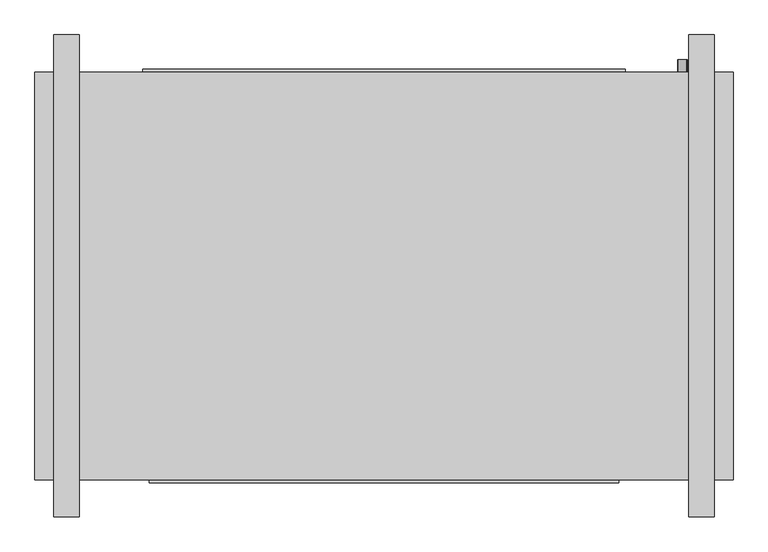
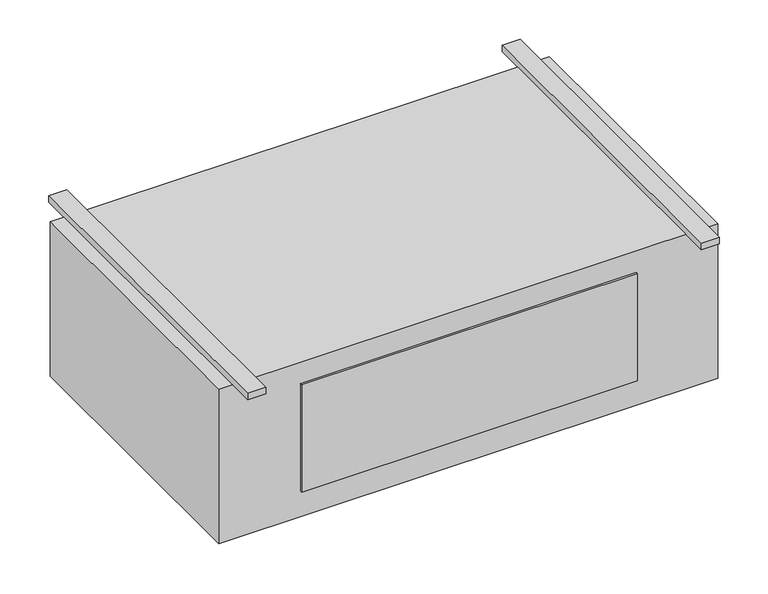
"""IFC4 building model written with IfcOpenShell, lengths in millimetres: proxy geometry, Exposed_High_Capacity_Horizontal_Cabinet_Fan_Coil_Unit_-_42DFA_-_CARRIER_-_2-Pipe_Cool-EHeat_RH_2022 : Size 16 - 277v/60Hz/1Ph - 6 Row 12.0kW."""

from ifc_helpers import new_model, si_unit, point, frame, frame_2d, origin, origin_with_axes, place, context, project, spatial, polyline, circle_curve, trimmed, segment, composite_curve, outline, extrude, source, transform, mapped, element, save


def mechanical_equipment_dbfdf2e5(model_context):
    return source(origin(), model_context, "Body", "SweptSolid", [
        extrude(outline(composite_curve([segment(trimmed(circle_curve(frame_2d((-406.4, 749.3)), 9.525), [point((-406.4, 739.775))], [point((-406.4, 758.825))], False, "CARTESIAN"), True, "CONTINUOUS"), segment(trimmed(circle_curve(frame_2d((-406.4, 749.3)), 9.525), [point((-406.4, 758.825))], [point((-406.4, 739.775))], False, "CARTESIAN"), True, "CONTINUOUS")], self_intersect=False)), frame((0.0, 169.8625, 0.0), z_axis=(0.0, 1.0, 0.0), x_axis=(0.0, 0.0, 1.0)), (0.0, 0.0, 1.0), 25.4),
        extrude(outline(composite_curve([segment(trimmed(circle_curve(frame_2d((-330.2, 749.3)), 7.9375), [point((-330.2, 741.3625))], [point((-330.2, 757.2375))], False, "CARTESIAN"), True, "CONTINUOUS"), segment(trimmed(circle_curve(frame_2d((-330.2, 749.3)), 7.9375), [point((-330.2, 757.2375))], [point((-330.2, 741.3625))], False, "CARTESIAN"), True, "CONTINUOUS")], self_intersect=False)), frame((0.0, 169.8625, 0.0), z_axis=(0.0, 1.0, 0.0), x_axis=(0.0, 0.0, 1.0)), (0.0, 0.0, 1.0), 25.4),
        extrude(outline(composite_curve([segment(trimmed(circle_curve(frame_2d((-254.0, 749.3)), 7.9375), [point((-254.0, 741.3625))], [point((-254.0, 757.2375))], False, "CARTESIAN"), True, "CONTINUOUS"), segment(trimmed(circle_curve(frame_2d((-254.0, 749.3)), 7.9375), [point((-254.0, 757.2375))], [point((-254.0, 741.3625))], False, "CARTESIAN"), True, "CONTINUOUS")], self_intersect=False)), frame((0.0, 169.8625, 0.0), z_axis=(0.0, 1.0, 0.0), x_axis=(0.0, 0.0, 1.0)), (0.0, 0.0, 1.0), 25.4),
        extrude(outline(polyline([(850.9, 169.8625), (850.9, -646.1125), (-546.1, -646.1125), (-546.1, 169.8625), (850.9, 169.8625)])), frame((0.0, 0.0, -457.2), z_axis=(0.0, 0.0, 1.0), x_axis=(1.0, 0.0, 0.0)), (0.0, 0.0, 1.0), 457.2),
        extrude(outline(polyline([(-330.2, 176.2125), (635.0, 176.2125), (635.0, 169.8625), (-330.2, 169.8625), (-330.2, 176.2125)])), frame((0.0, 0.0, -381.0), z_axis=(0.0, 0.0, 1.0), x_axis=(1.0, 0.0, 0.0)), (0.0, 0.0, 1.0), 355.6),
        extrude(outline(polyline([(-457.2, 244.475), (-457.2, -720.725), (-508.0, -720.725), (-508.0, 244.475), (-457.2, 244.475)])), origin_with_axes(), (0.0, 0.0, 1.0), 19.05),
        extrude(outline(polyline([(812.8, 244.475), (812.8, -720.725), (762.0, -720.725), (762.0, 244.475), (812.8, 244.475)])), origin_with_axes(), (0.0, 0.0, 1.0), 19.05),
        extrude(outline(polyline([(622.3, -652.4625), (-317.5, -652.4625), (-317.5, -646.1125), (622.3, -646.1125), (622.3, -652.4625)])), frame((0.0, 0.0, -381.0), z_axis=(0.0, 0.0, 1.0), x_axis=(1.0, 0.0, 0.0)), (0.0, 0.0, 1.0), 317.5),
    ])


if __name__ == "__main__":
    model = new_model("IFC4")
    model_context = context("Model", 3, world=origin())
    ifc_project = project(units=[si_unit("LENGTHUNIT", "METRE", prefix="MILLI")], contexts=[model_context])
    site = spatial("IfcSite", under=ifc_project)
    building = spatial("IfcBuilding", under=site)
    placement = place(None, origin())
    mechanical_equipment_shape = mechanical_equipment_dbfdf2e5(model_context)
    element("IfcBuildingElementProxy", 1, Name="Exposed_High_Capacity_Horizontal_Cabinet_Fan_Coil_Unit_-_42DFA_-_CARRIER_-_2-Pipe_Cool-EHeat_RH_2022 : Size 16 - 277v/60Hz/1Ph - 6 Row 12.0kW", ObjectType="Exposed_High_Capacity_Horizontal_Cabinet_Fan_Coil_Unit_-_42DFA_-_CARRIER_-_2-Pipe_Cool-EHeat_RH_2022 : Size 16 - 277v/60Hz/1Ph - 6 Row 12.0kW", at=placement, inside=building, context=model_context, shape_type="MappedRepresentation", body=[
        mapped(mechanical_equipment_shape, transform((0.0, 0.0, 0.0), x_axis=(1.0, 0.0, 0.0), y_axis=(0.0, 1.0, 0.0), z_axis=(0.0, 0.0, 1.0))),
    ])
    save(model, "model.ifc")
